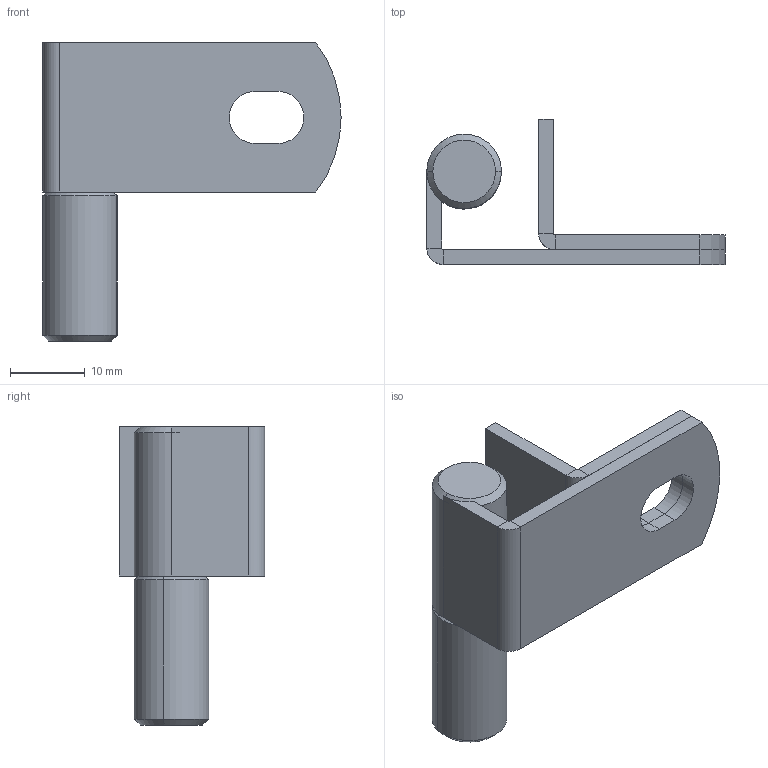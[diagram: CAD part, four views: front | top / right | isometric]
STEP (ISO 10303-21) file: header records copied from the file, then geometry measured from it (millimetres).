
FILE_DESCRIPTION (( 'STEP AP214' ), '1' );
FILE_NAME ('3.ST8.002.STEP', '2010-03-01T16:03:04', ( 'Piotr Zieliñski' ), ( 'Roztocze Z.U.P.' ), 'SwSTEP 2.0', 'SolidWorks 2004231', '' );
FILE_SCHEMA (( 'AUTOMOTIVE_DESIGN' ));
Length unit declared in the file: millimetre
Products named in the file (4): 3.ST8.001.02_Domyœlna; 3.ST8.001.03_Domyœlna; 3.ST8.002.01_Domyœlna; 3.ST8.002
Assembly tree (3 placements, depth 2):
  3.ST8.002
    3.ST8.001.03_Domyœlna
    3.ST8.001.02_Domyœlna
    3.ST8.002.01_Domyœlna
Bounding box: 40 x 19.5 x 40 mm (x, y, z)
Volume: 6222.5 mm3; surface area: 5707.5 mm2
Topology: 3 solids, 3 shells, 59 faces, 125 edges, 74 vertices
Faces by surface type: plane 30, cylinder 19, cone 10
Entity records: 1692 total; most frequent: DIRECTION 303, CARTESIAN_POINT 264, ORIENTED_EDGE 250, EDGE_CURVE 125, AXIS2_PLACEMENT_3D 113, VECTOR 77, LINE 77, VERTEX_POINT 74
